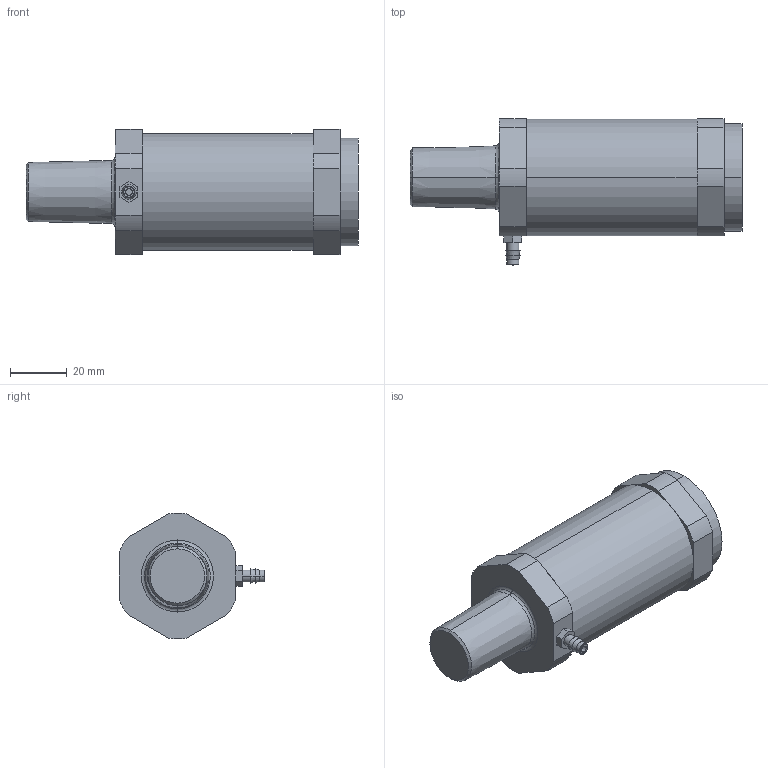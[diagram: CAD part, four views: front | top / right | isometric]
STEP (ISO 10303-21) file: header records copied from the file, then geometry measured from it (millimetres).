
FILE_DESCRIPTION((''),'2;1');
FILE_NAME('XE4_ASM','2017-08-24T',('jennifer.elliott'),('CenterLine (Windsor) Ltd - Automation Components Division'),'PRO/ENGINEER BY PARAMETRIC TECHNOLOGY CORPORATION, 2015030','PRO/ENGINEER BY PARAMETRIC TECHNOLOGY CORPORATION, 2015030','');
FILE_SCHEMA(('AUTOMOTIVE_DESIGN { 1 0 10303 214 1 1 1 1 }'));
Length unit declared in the file: inch
Products named in the file (6): PRT1041; PRT1042; PRT1043; PRT1044; PRT1045; XE4_ASM
Assembly tree (5 placements, depth 2):
  XE4_ASM
    PRT1041
    PRT1042
    PRT1043
    PRT1044
    PRT1045
Bounding box: 117.35 x 51.59 x 44.45 mm (x, y, z)
Volume: 127260.8 mm3; surface area: 24267.6 mm2
Topology: 5 solids, 5 shells, 70 faces, 180 edges, 124 vertices
Faces by surface type: plane 32, cylinder 22, torus 8, cone 8
Entity records: 2581 total; most frequent: DIRECTION 438, CARTESIAN_POINT 401, ORIENTED_EDGE 360, EDGE_CURVE 180, AXIS2_PLACEMENT_3D 177, VERTEX_POINT 124, CIRCLE 96, VECTOR 84
